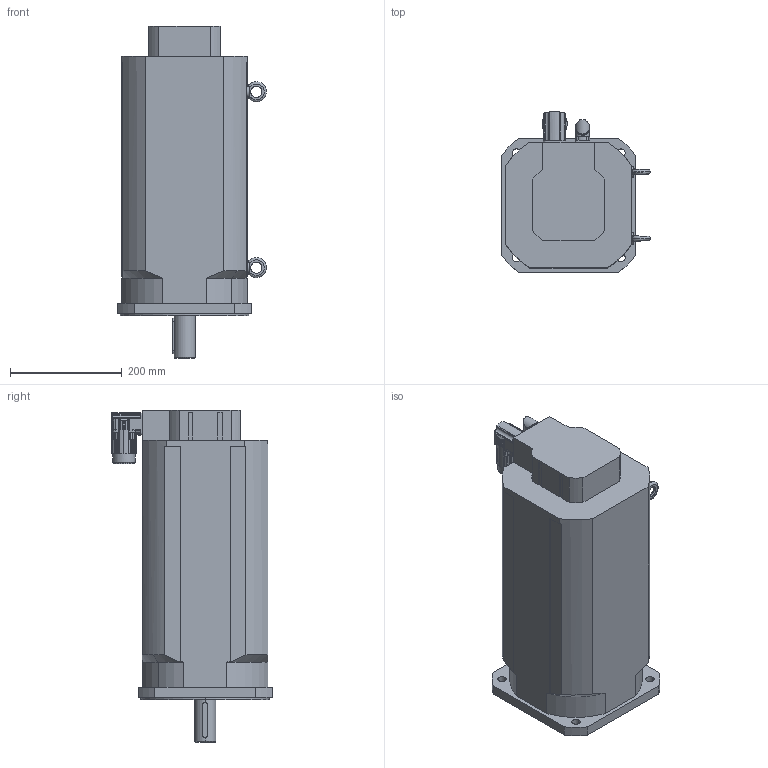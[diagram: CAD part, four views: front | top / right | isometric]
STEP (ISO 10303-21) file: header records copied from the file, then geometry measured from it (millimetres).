
FILE_DESCRIPTION(('STEP AP203'),'2;1');
FILE_NAME('MT8-0930_B.stp','2006-08-28T20:30:50',(''),(''),'2005.2.102','THINKDESIGN','');
FILE_SCHEMA(('CONFIG_CONTROL_DESIGN'));
Length unit declared in the file: millimetre
Bounding box: 266.5 x 287.18 x 595 mm (x, y, z)
Volume: 23162561.2 mm3; surface area: 575872.9 mm2
Topology: 5 solids, 5 shells, 534 faces, 1442 edges, 929 vertices
Faces by surface type: cylinder 259, plane 194, bspline 81
Full cylindrical faces by diameter (mm): 20 x1, 23 x1, 29 x1, 37.8 x1, 40 x1
Entity records: 19287 total; most frequent: CARTESIAN_POINT 5926, ORIENTED_EDGE 2872, DIRECTION 2774, EDGE_CURVE 1436, AXIS2_PLACEMENT_3D 1055, VERTEX_POINT 929, VECTOR 664, LINE 664
